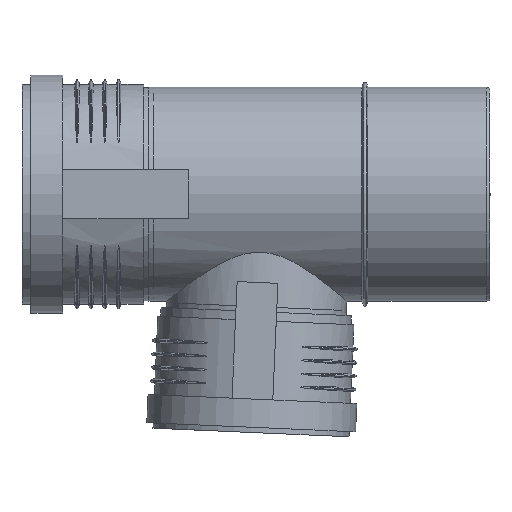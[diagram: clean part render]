
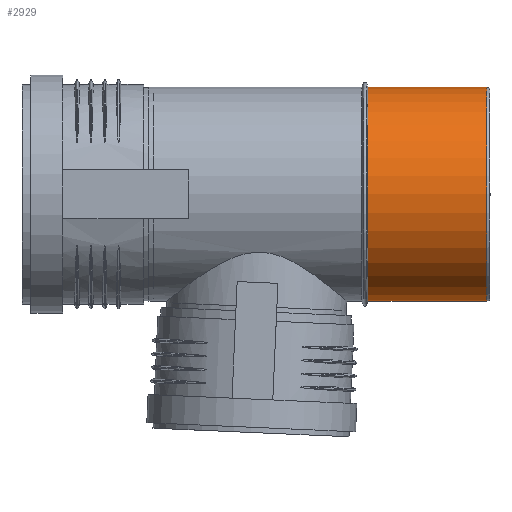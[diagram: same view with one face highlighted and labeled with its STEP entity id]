
A CAD part, left-side view. The second image highlights one B-rep face of the part: STEP entity #2929.
In plain terms, the highlighted cylindrical face has radius 65.6 mm (diameter 131.2 mm), a full revolution.
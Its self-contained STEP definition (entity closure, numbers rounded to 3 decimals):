
#567=FACE_OUTER_BOUND($,#977,.T.);
#725=CIRCLE($,#3123,65.6);
#727=CIRCLE($,#3126,65.6);
#865=FACE_BOUND($,#978,.T.);
#977=EDGE_LOOP($,(#2094));
#978=EDGE_LOOP($,(#2095));
#1390=VERTEX_POINT($,#4343);
#1392=VERTEX_POINT($,#4348);
#1691=EDGE_CURVE($,#1390,#1390,#725,.T.);
#1693=EDGE_CURVE($,#1392,#1392,#727,.T.);
#2094=ORIENTED_EDGE($,*,*,#1693,.T.);
#2095=ORIENTED_EDGE($,*,*,#1691,.F.);
#2881=CYLINDRICAL_SURFACE($,#3125,65.6);
#2929=ADVANCED_FACE($,(#567,#865),#2881,.T.);
#3123=AXIS2_PLACEMENT_3D($,#4344,#3463,#3464);
#3125=AXIS2_PLACEMENT_3D($,#4347,#3467,#3468);
#3126=AXIS2_PLACEMENT_3D($,#4349,#3469,#3470);
#3463=DIRECTION('center_axis',(0.,-1.,0.));
#3464=DIRECTION('ref_axis',(1.,0.,0.));
#3467=DIRECTION('center_axis',(0.,1.,0.));
#3468=DIRECTION('ref_axis',(1.,0.,0.));
#3469=DIRECTION('center_axis',(0.,-1.,0.));
#3470=DIRECTION('ref_axis',(1.,0.,0.));
#4343=CARTESIAN_POINT('',(-65.6,2.,0.));
#4344=CARTESIAN_POINT('Origin',(0.,2.,0.));
#4347=CARTESIAN_POINT('Origin',(0.,0.,0.));
#4348=CARTESIAN_POINT('',(-65.6,74.9,0.));
#4349=CARTESIAN_POINT('Origin',(0.,74.9,0.));
